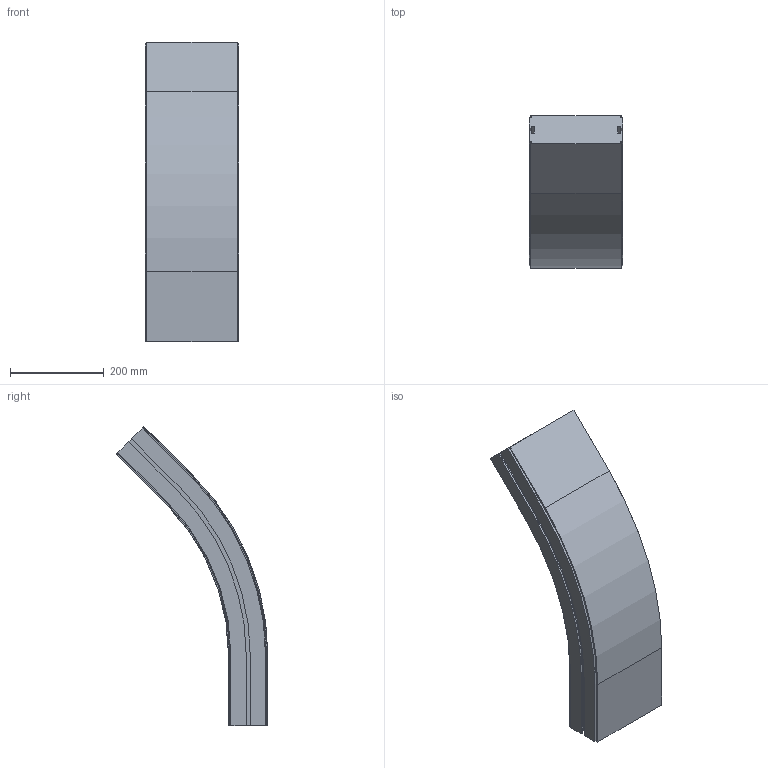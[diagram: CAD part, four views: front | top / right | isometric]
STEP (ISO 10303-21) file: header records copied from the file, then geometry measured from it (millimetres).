
FILE_DESCRIPTION (( 'STEP AP214' ), '1' );
FILE_NAME ('CS SL Verticaalbocht.200 45°.STEP', '2017-02-08T07:37:39', ( '' ), ( '' ), 'SwSTEP 2.0', 'SolidWorks 2016', '' );
FILE_SCHEMA (( 'AUTOMOTIVE_DESIGN' ));
Length unit declared in the file: millimetre
Products named in the file (1): CS SL Verticaalbocht.200 45°
Bounding box: 200 x 324.21 x 639.32 mm (x, y, z)
Volume: 11335764.2 mm3; surface area: 499580.6 mm2
Topology: 1 solids, 1 shells, 98 faces, 272 edges, 176 vertices
Faces by surface type: plane 72, cylinder 18, cone 8
Entity records: 3126 total; most frequent: CARTESIAN_POINT 547, ORIENTED_EDGE 544, DIRECTION 514, EDGE_CURVE 272, VECTOR 228, LINE 228, VERTEX_POINT 176, AXIS2_PLACEMENT_3D 143
